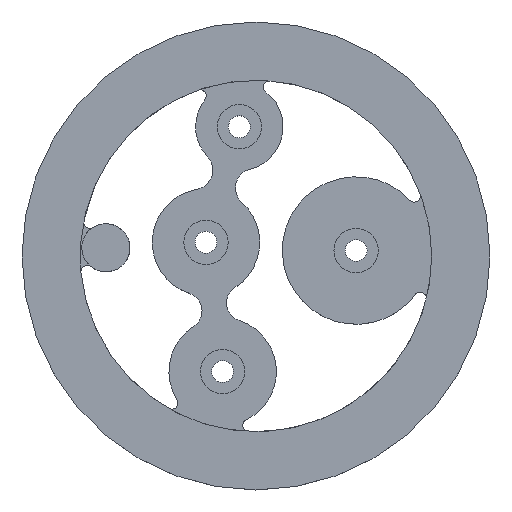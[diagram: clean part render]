
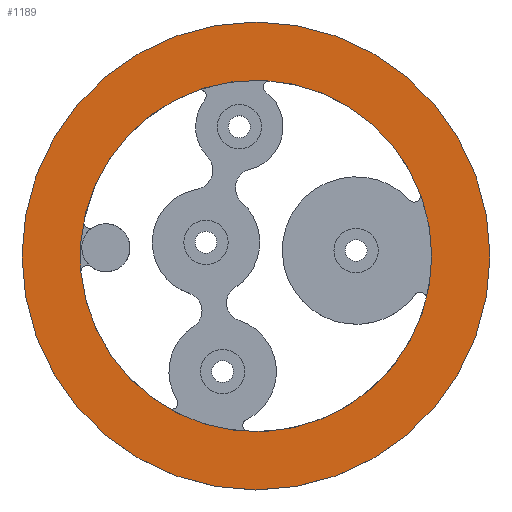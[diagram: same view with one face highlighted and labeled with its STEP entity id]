
A CAD part, top view. The second image highlights one B-rep face of the part: STEP entity #1189.
In plain terms, the highlighted planar face has unit normal (0, 0, 1).
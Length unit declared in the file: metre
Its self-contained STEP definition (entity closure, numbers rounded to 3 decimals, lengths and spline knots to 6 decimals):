
#152=PLANE('',#1381);
#433=ORIENTED_EDGE('',*,*,#534,.T.);
#434=ORIENTED_EDGE('',*,*,#553,.T.);
#534=EDGE_CURVE('',#678,#678,#784,.T.);
#553=EDGE_CURVE('',#688,#688,#795,.F.);
#678=VERTEX_POINT('',#1977);
#688=VERTEX_POINT('',#2016);
#784=CIRCLE('',#1286,0.028132);
#795=CIRCLE('',#1307,0.03745);
#932=EDGE_LOOP('',(#433));
#933=EDGE_LOOP('',(#434));
#1056=FACE_BOUND('',#932,.T.);
#1057=FACE_BOUND('',#933,.T.);
#1189=ADVANCED_FACE('',(#1056,#1057),#152,.F.);
#1286=AXIS2_PLACEMENT_3D('',#1976,#1560,#1561);
#1307=AXIS2_PLACEMENT_3D('',#2015,#1610,#1611);
#1381=AXIS2_PLACEMENT_3D('',#2148,#1782,#1783);
#1560=DIRECTION('',(0.,0.,-1.));
#1561=DIRECTION('',(1.,0.,0.));
#1610=DIRECTION('',(0.,0.,-1.));
#1611=DIRECTION('',(1.,0.,0.));
#1782=DIRECTION('',(0.,0.,-1.));
#1783=DIRECTION('',(1.,0.,0.));
#1976=CARTESIAN_POINT('',(0.,0.,0.0312));
#1977=CARTESIAN_POINT('',(0.028132,0.,0.0312));
#2015=CARTESIAN_POINT('',(0.,0.,0.0312));
#2016=CARTESIAN_POINT('',(0.03745,0.,0.0312));
#2148=CARTESIAN_POINT('',(0.,0.,0.0312));
